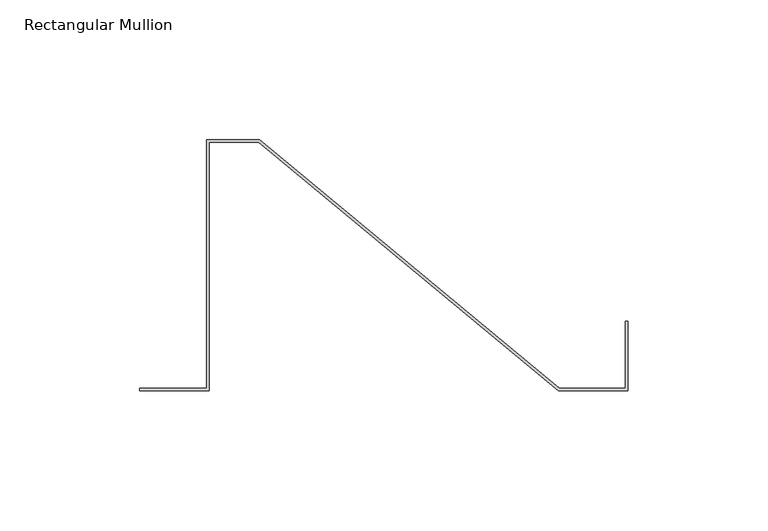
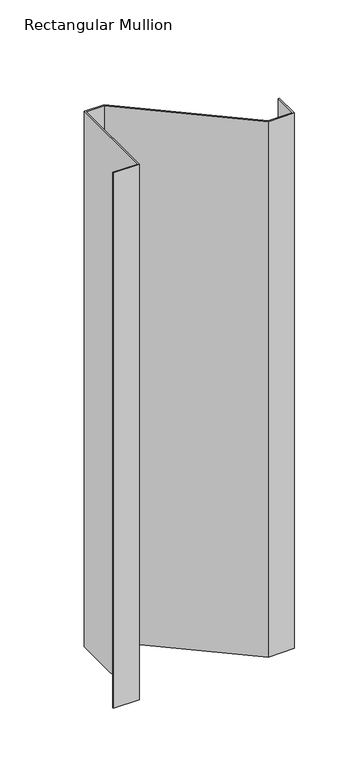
"""IFC4 building model written with IfcOpenShell, lengths in millimetres: member geometry, Rectangular Mullion : CD_NINELINE_Sawtooth End."""

from ifc_helpers import new_model, si_unit, frame, origin, place, context, project, spatial, polyline, outline, extrude, source, transform, mapped, element, save


def rectangular_mullion_7b9f7ba7(model_context):
    return source(origin(), model_context, "Body", "SweptSolid", [
        extrude(outline(polyline([(-150.0, 0.0), (-175.0, 0.0), (-175.0, 1.0), (-151.0, 1.0), (-151.0, 90.0), (-132.0120255, 90.0), (-24.587175, 1.0), (-1.0, 1.0), (-1.0, 25.0), (0.0, 25.0), (0.0, 0.0), (-25.0, 0.0), (-132.4248505, 89.0), (-150.0, 89.0), (-150.0, 0.0)])), frame((0.0, 0.0, -548.0), z_axis=(0.0, 0.0, 1.0), x_axis=(1.0, 0.0, 0.0)), (0.0, 0.0, 1.0), 548.0),
    ])


if __name__ == "__main__":
    model = new_model("IFC4")
    model_context = context("Model", 3, world=origin())
    ifc_project = project(units=[si_unit("LENGTHUNIT", "METRE", prefix="MILLI")], contexts=[model_context])
    site = spatial("IfcSite", under=ifc_project)
    building = spatial("IfcBuilding", under=site)
    placement = place(None, origin())
    rectangular_mullion_shape = rectangular_mullion_7b9f7ba7(model_context)
    element("IfcMember", 1, ObjectType="Rectangular Mullion : CD_NINELINE_Sawtooth End", at=placement, inside=building, context=model_context, shape_type="MappedRepresentation", body=[
        mapped(rectangular_mullion_shape, transform((0.0, 0.0, 0.0), x_axis=(1.0, 0.0, 0.0), y_axis=(0.0, 1.0, 0.0), z_axis=(0.0, 0.0, 1.0))),
    ])
    save(model, "model.ifc")
